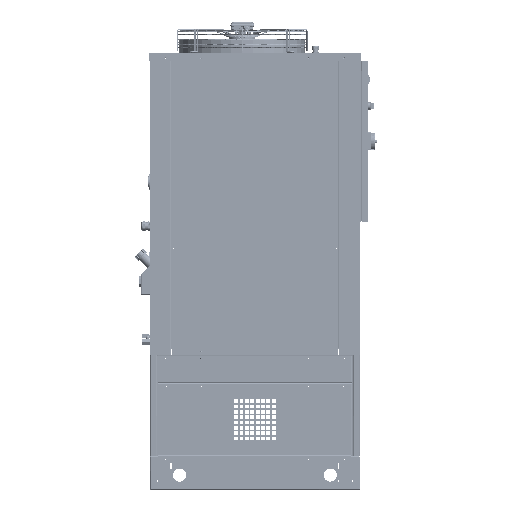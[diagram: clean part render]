
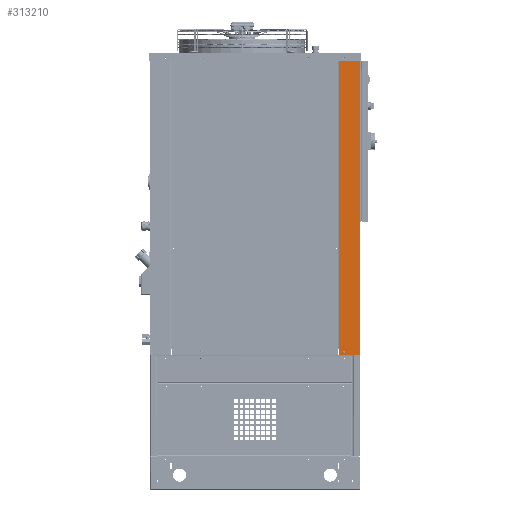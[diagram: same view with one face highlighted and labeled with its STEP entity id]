
A CAD part, top view. The second image highlights one B-rep face of the part: STEP entity #313210.
In plain terms, the highlighted planar face has unit normal (0, 0, 1) as drawn and (0, 0, -1) by its records, which use the part's own axes.
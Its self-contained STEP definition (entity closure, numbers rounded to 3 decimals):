
#6707 = LINE ( 'NONE', #50579, #309550 ) ;
#8168 = DIRECTION ( 'NONE',  ( 0., 0., -1. ) ) ;
#8305 = LINE ( 'NONE', #154685, #433628 ) ;
#14968 = FACE_BOUND ( 'NONE', #52978, .T. ) ;
#16374 = CARTESIAN_POINT ( 'NONE',  ( 563.8, 77.6, -112. ) ) ;
#21966 = DIRECTION ( 'NONE',  ( -0.5, -0.866, 0. ) ) ;
#27299 = VERTEX_POINT ( 'NONE', #40113 ) ;
#27867 = FACE_OUTER_BOUND ( 'NONE', #52596, .T. ) ;
#30850 = CARTESIAN_POINT ( 'NONE',  ( 554.8, 60., -112. ) ) ;
#34879 = DIRECTION ( 'NONE',  ( 0.5, 0.866, 0. ) ) ;
#36301 = DIRECTION ( 'NONE',  ( 0., -1., 0. ) ) ;
#37148 = VERTEX_POINT ( 'NONE', #69469 ) ;
#37439 = VERTEX_POINT ( 'NONE', #315738 ) ;
#38385 = CARTESIAN_POINT ( 'NONE',  ( 563.8, 2.4, -112. ) ) ;
#40113 = CARTESIAN_POINT ( 'NONE',  ( -563.8, 77.6, -112. ) ) ;
#41334 = CARTESIAN_POINT ( 'NONE',  ( 547.8, 60., -112. ) ) ;
#50579 = CARTESIAN_POINT ( 'NONE',  ( -542.979, 56.5, -112. ) ) ;
#52596 = EDGE_LOOP ( 'NONE', ( #254235, #112419, #249526, #475426 ) ) ;
#52825 = VERTEX_POINT ( 'NONE', #16374 ) ;
#52978 = EDGE_LOOP ( 'NONE', ( #486894, #404015, #200167, #296984, #200799, #330952 ) ) ;
#60314 = CARTESIAN_POINT ( 'NONE',  ( -542.979, 63.5, -112. ) ) ;
#69469 = CARTESIAN_POINT ( 'NONE',  ( -540.959, 60., -112. ) ) ;
#71654 = VERTEX_POINT ( 'NONE', #105132 ) ;
#71811 = DIRECTION ( 'NONE',  ( 1., 0., 0. ) ) ;
#79903 = DIRECTION ( 'NONE',  ( 1., 0., 0. ) ) ;
#82939 = VERTEX_POINT ( 'NONE', #30850 ) ;
#88445 = LINE ( 'NONE', #204204, #185218 ) ;
#92564 = CARTESIAN_POINT ( 'NONE',  ( -549.041, 60., -112. ) ) ;
#94206 = EDGE_LOOP ( 'NONE', ( #122642, #302029 ) ) ;
#96848 = VECTOR ( 'NONE', #21966, 1000. ) ;
#102708 = EDGE_CURVE ( 'NONE', #461418, #52825, #425170, .T. ) ;
#105132 = CARTESIAN_POINT ( 'NONE',  ( -542.979, 56.5, -112. ) ) ;
#112001 = VERTEX_POINT ( 'NONE', #92564 ) ;
#112419 = ORIENTED_EDGE ( 'NONE', *, *, #218265, .T. ) ;
#112887 = VERTEX_POINT ( 'NONE', #41334 ) ;
#117497 = CARTESIAN_POINT ( 'NONE',  ( -563.8, 1.2, -112. ) ) ;
#120124 = AXIS2_PLACEMENT_3D ( 'NONE', #376072, #129511, #417551 ) ;
#122642 = ORIENTED_EDGE ( 'NONE', *, *, #282922, .F. ) ;
#129511 = DIRECTION ( 'NONE',  ( 0., 0., -1. ) ) ;
#130825 = EDGE_CURVE ( 'NONE', #71654, #37439, #6707, .T. ) ;
#138513 = VECTOR ( 'NONE', #150726, 1000. ) ;
#140165 = VECTOR ( 'NONE', #36301, 1000. ) ;
#150726 = DIRECTION ( 'NONE',  ( -0.5, 0.866, 0. ) ) ;
#154685 = CARTESIAN_POINT ( 'NONE',  ( -547.021, 63.5, -112. ) ) ;
#158991 = DIRECTION ( 'NONE',  ( 0., 1., 0. ) ) ;
#162200 = CARTESIAN_POINT ( 'NONE',  ( 551.3, 60., -112. ) ) ;
#185218 = VECTOR ( 'NONE', #79903, 1000. ) ;
#185367 = DIRECTION ( 'NONE',  ( 0.5, -0.866, 0. ) ) ;
#186298 = CARTESIAN_POINT ( 'NONE',  ( -549.041, 60., -112. ) ) ;
#192275 = LINE ( 'NONE', #349097, #288823 ) ;
#200167 = ORIENTED_EDGE ( 'NONE', *, *, #452687, .F. ) ;
#200799 = ORIENTED_EDGE ( 'NONE', *, *, #337379, .F. ) ;
#203640 = DIRECTION ( 'NONE',  ( -1., 0., 0. ) ) ;
#204204 = CARTESIAN_POINT ( 'NONE',  ( -563.8, 77.6, -112. ) ) ;
#208310 = LINE ( 'NONE', #186298, #524010 ) ;
#218265 = EDGE_CURVE ( 'NONE', #27299, #52825, #88445, .T. ) ;
#221513 = CIRCLE ( 'NONE', #120124, 3.5 ) ;
#247502 = VERTEX_POINT ( 'NONE', #519283 ) ;
#247722 = AXIS2_PLACEMENT_3D ( 'NONE', #162200, #450271, #203640 ) ;
#249526 = ORIENTED_EDGE ( 'NONE', *, *, #102708, .F. ) ;
#254235 = ORIENTED_EDGE ( 'NONE', *, *, #334478, .F. ) ;
#254965 = CARTESIAN_POINT ( 'NONE',  ( -563.8, 1.2, -112. ) ) ;
#257735 = DIRECTION ( 'NONE',  ( -1., 0., 0. ) ) ;
#277011 = AXIS2_PLACEMENT_3D ( 'NONE', #254965, #8168, #296294 ) ;
#282922 = EDGE_CURVE ( 'NONE', #112887, #82939, #469561, .T. ) ;
#285650 = VERTEX_POINT ( 'NONE', #60314 ) ;
#288823 = VECTOR ( 'NONE', #185367, 1000. ) ;
#296294 = DIRECTION ( 'NONE',  ( -1., 0., 0. ) ) ;
#296984 = ORIENTED_EDGE ( 'NONE', *, *, #533315, .F. ) ;
#302029 = ORIENTED_EDGE ( 'NONE', *, *, #479230, .F. ) ;
#308751 = DIRECTION ( 'NONE',  ( -1., 0., 0. ) ) ;
#309550 = VECTOR ( 'NONE', #257735, 1000. ) ;
#313210 = ADVANCED_FACE ( 'NONE', ( #14968, #343637, #27867 ), #418762, .T. ) ;
#315738 = CARTESIAN_POINT ( 'NONE',  ( -547.021, 56.5, -112. ) ) ;
#328436 = VECTOR ( 'NONE', #158991, 1000. ) ;
#330952 = ORIENTED_EDGE ( 'NONE', *, *, #373368, .F. ) ;
#334478 = EDGE_CURVE ( 'NONE', #27299, #247502, #359061, .T. ) ;
#337379 = EDGE_CURVE ( 'NONE', #457550, #285650, #8305, .T. ) ;
#341918 = LINE ( 'NONE', #514141, #354782 ) ;
#343637 = FACE_BOUND ( 'NONE', #94206, .T. ) ;
#349097 = CARTESIAN_POINT ( 'NONE',  ( -542.979, 63.5, -112. ) ) ;
#354782 = VECTOR ( 'NONE', #308751, 1000. ) ;
#359061 = LINE ( 'NONE', #117497, #140165 ) ;
#373368 = EDGE_CURVE ( 'NONE', #112001, #457550, #208310, .T. ) ;
#376072 = CARTESIAN_POINT ( 'NONE',  ( 551.3, 60., -112. ) ) ;
#395844 = CARTESIAN_POINT ( 'NONE',  ( -547.021, 63.5, -112. ) ) ;
#397383 = CARTESIAN_POINT ( 'NONE',  ( -547.021, 56.5, -112. ) ) ;
#403423 = EDGE_CURVE ( 'NONE', #461418, #247502, #341918, .T. ) ;
#404015 = ORIENTED_EDGE ( 'NONE', *, *, #130825, .F. ) ;
#405638 = CARTESIAN_POINT ( 'NONE',  ( 563.8, 80., -112. ) ) ;
#417551 = DIRECTION ( 'NONE',  ( -1., 0., 0. ) ) ;
#418762 = PLANE ( 'NONE',  #277011 ) ;
#425170 = LINE ( 'NONE', #405638, #328436 ) ;
#425436 = LINE ( 'NONE', #510108, #96848 ) ;
#433628 = VECTOR ( 'NONE', #71811, 1000. ) ;
#450271 = DIRECTION ( 'NONE',  ( 0., 0., -1. ) ) ;
#452687 = EDGE_CURVE ( 'NONE', #37148, #71654, #425436, .T. ) ;
#457550 = VERTEX_POINT ( 'NONE', #395844 ) ;
#461418 = VERTEX_POINT ( 'NONE', #38385 ) ;
#467052 = LINE ( 'NONE', #397383, #138513 ) ;
#469561 = CIRCLE ( 'NONE', #247722, 3.5 ) ;
#473250 = EDGE_CURVE ( 'NONE', #37439, #112001, #467052, .T. ) ;
#475426 = ORIENTED_EDGE ( 'NONE', *, *, #403423, .T. ) ;
#479230 = EDGE_CURVE ( 'NONE', #82939, #112887, #221513, .T. ) ;
#486894 = ORIENTED_EDGE ( 'NONE', *, *, #473250, .F. ) ;
#510108 = CARTESIAN_POINT ( 'NONE',  ( -540.959, 60., -112. ) ) ;
#514141 = CARTESIAN_POINT ( 'NONE',  ( -563.8, 2.4, -112. ) ) ;
#519283 = CARTESIAN_POINT ( 'NONE',  ( -563.8, 2.4, -112. ) ) ;
#524010 = VECTOR ( 'NONE', #34879, 1000. ) ;
#533315 = EDGE_CURVE ( 'NONE', #285650, #37148, #192275, .T. ) ;
